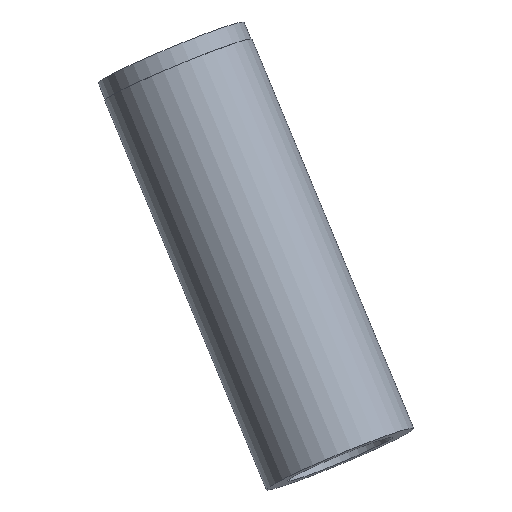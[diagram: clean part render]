
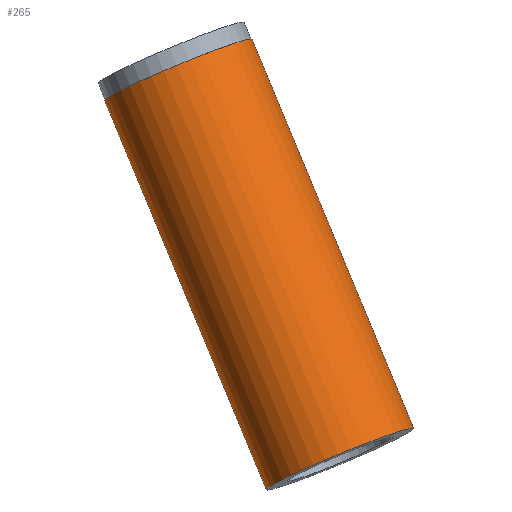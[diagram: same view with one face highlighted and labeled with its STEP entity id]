
A CAD part, left-side view. The second image highlights one B-rep face of the part: STEP entity #265.
In plain terms, the highlighted cylindrical face has radius 46.5 mm (diameter 93 mm), a partial arc.
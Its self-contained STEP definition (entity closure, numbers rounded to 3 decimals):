
#8 = CARTESIAN_POINT ( 'NONE',  ( -16.861, 93.886, 108.76 ) ) ;
#23 = CYLINDRICAL_SURFACE ( 'NONE', #437, 46.5 ) ;
#36 = CIRCLE ( 'NONE', #325, 46.5 ) ;
#38 = FACE_OUTER_BOUND ( 'NONE', #343, .T. ) ;
#42 = CARTESIAN_POINT ( 'NONE',  ( -16.861, 8.007, 144.449 ) ) ;
#46 = ORIENTED_EDGE ( 'NONE', *, *, #464, .T. ) ;
#51 = ORIENTED_EDGE ( 'NONE', *, *, #215, .T. ) ;
#56 = VECTOR ( 'NONE', #422, 1000. ) ;
#62 = LINE ( 'NONE', #305, #308 ) ;
#63 = CARTESIAN_POINT ( 'NONE',  ( -16.861, 50.946, 126.605 ) ) ;
#67 = VERTEX_POINT ( 'NONE', #8 ) ;
#72 = ORIENTED_EDGE ( 'NONE', *, *, #232, .T. ) ;
#83 = VERTEX_POINT ( 'NONE', #42 ) ;
#91 = CARTESIAN_POINT ( 'NONE',  ( -1.604, 145.169, 353.332 ) ) ;
#146 = DIRECTION ( 'NONE',  ( 0.062, 0.383, 0.922 ) ) ;
#150 = CARTESIAN_POINT ( 'NONE',  ( -1.604, 102.23, 371.177 ) ) ;
#154 = CIRCLE ( 'NONE', #474, 46.5 ) ;
#158 = DIRECTION ( 'NONE',  ( 0.062, 0.383, 0.922 ) ) ;
#172 = DIRECTION ( 'NONE',  ( -0.062, -0.383, -0.922 ) ) ;
#207 = CARTESIAN_POINT ( 'NONE',  ( -7.437, 109.15, 266.658 ) ) ;
#214 = DIRECTION ( 'NONE',  ( 0., -0.923, 0.384 ) ) ;
#215 = EDGE_CURVE ( 'NONE', #418, #467, #36, .T. ) ;
#232 = EDGE_CURVE ( 'NONE', #67, #83, #154, .T. ) ;
#265 = ADVANCED_FACE ( 'NONE', ( #38 ), #23, .T. ) ;
#296 = DIRECTION ( 'NONE',  ( 0., -0.923, 0.384 ) ) ;
#305 = CARTESIAN_POINT ( 'NONE',  ( -7.437, 66.21, 284.503 ) ) ;
#308 = VECTOR ( 'NONE', #158, 1000. ) ;
#317 = CARTESIAN_POINT ( 'NONE',  ( -7.437, 152.089, 248.814 ) ) ;
#325 = AXIS2_PLACEMENT_3D ( 'NONE', #91, #172, #399 ) ;
#343 = EDGE_LOOP ( 'NONE', ( #479, #72, #46, #51 ) ) ;
#378 = EDGE_CURVE ( 'NONE', #67, #467, #392, .T. ) ;
#392 = LINE ( 'NONE', #317, #56 ) ;
#399 = DIRECTION ( 'NONE',  ( 0., -0.923, 0.384 ) ) ;
#406 = DIRECTION ( 'NONE',  ( 0.062, 0.383, 0.922 ) ) ;
#418 = VERTEX_POINT ( 'NONE', #150 ) ;
#422 = DIRECTION ( 'NONE',  ( 0.062, 0.383, 0.922 ) ) ;
#437 = AXIS2_PLACEMENT_3D ( 'NONE', #207, #406, #214 ) ;
#457 = CARTESIAN_POINT ( 'NONE',  ( -1.604, 188.109, 335.487 ) ) ;
#464 = EDGE_CURVE ( 'NONE', #83, #418, #62, .T. ) ;
#467 = VERTEX_POINT ( 'NONE', #457 ) ;
#474 = AXIS2_PLACEMENT_3D ( 'NONE', #63, #146, #296 ) ;
#479 = ORIENTED_EDGE ( 'NONE', *, *, #378, .F. ) ;
